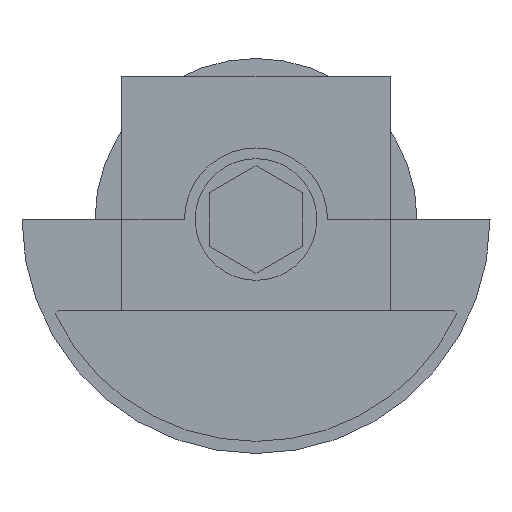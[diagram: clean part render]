
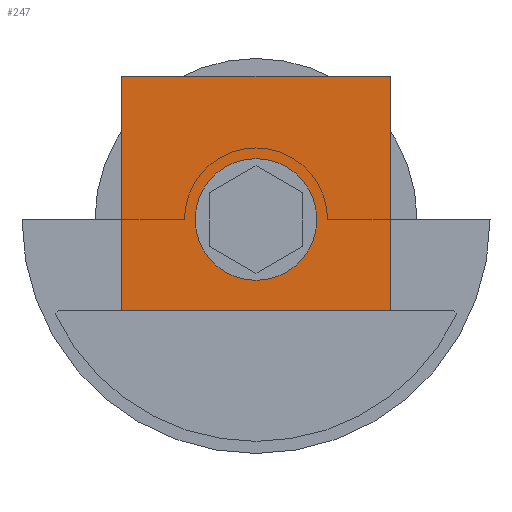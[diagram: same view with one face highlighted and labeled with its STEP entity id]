
A CAD part, left-side view. The second image highlights one B-rep face of the part: STEP entity #247.
In plain terms, the highlighted planar face has unit normal (-1, 0, 0).
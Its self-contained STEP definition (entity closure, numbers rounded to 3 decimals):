
#50 = DIRECTION ( 'NONE',  ( 0., 0., -1. ) ) ;
#52 = FACE_BOUND ( 'NONE', #1831, .T. ) ;
#58 = DIRECTION ( 'NONE',  ( -1., 0., 0. ) ) ;
#244 = CARTESIAN_POINT ( 'NONE',  ( -460., -60.696, 52.7 ) ) ;
#247 = ADVANCED_FACE ( 'NONE', ( #52, #1873 ), #1419, .F. ) ;
#270 = VERTEX_POINT ( 'NONE', #472 ) ;
#327 = CARTESIAN_POINT ( 'NONE',  ( -460., -13.95, 20. ) ) ;
#342 = CARTESIAN_POINT ( 'NONE',  ( -460., -32.7, 32.7 ) ) ;
#448 = DIRECTION ( 'NONE',  ( 0., 0., 1. ) ) ;
#458 = CIRCLE ( 'NONE', #1958, 4. ) ;
#472 = CARTESIAN_POINT ( 'NONE',  ( -460., -32.7, 36.7 ) ) ;
#473 = ORIENTED_EDGE ( 'NONE', *, *, #1324, .F. ) ;
#480 = CARTESIAN_POINT ( 'NONE',  ( -460., -60.696, 52.7 ) ) ;
#484 = AXIS2_PLACEMENT_3D ( 'NONE', #480, #1545, #1881 ) ;
#535 = LINE ( 'NONE', #244, #1837 ) ;
#574 = VERTEX_POINT ( 'NONE', #1216 ) ;
#603 = CARTESIAN_POINT ( 'NONE',  ( -460., -51.45, 52.7 ) ) ;
#626 = VECTOR ( 'NONE', #1466, 1000. ) ;
#635 = VERTEX_POINT ( 'NONE', #1939 ) ;
#652 = VECTOR ( 'NONE', #1403, 1000. ) ;
#673 = LINE ( 'NONE', #806, #652 ) ;
#709 = EDGE_CURVE ( 'NONE', #574, #897, #673, .T. ) ;
#746 = VERTEX_POINT ( 'NONE', #1268 ) ;
#749 = ORIENTED_EDGE ( 'NONE', *, *, #1172, .F. ) ;
#766 = CARTESIAN_POINT ( 'NONE',  ( -460., -13.95, 20. ) ) ;
#794 = CARTESIAN_POINT ( 'NONE',  ( -460., -32.7, 32.7 ) ) ;
#806 = CARTESIAN_POINT ( 'NONE',  ( -460., -60.696, 20. ) ) ;
#897 = VERTEX_POINT ( 'NONE', #766 ) ;
#950 = DIRECTION ( 'NONE',  ( 0., 0., -1. ) ) ;
#1116 = EDGE_LOOP ( 'NONE', ( #1273, #749, #1246, #473 ) ) ;
#1129 = VECTOR ( 'NONE', #448, 1000. ) ;
#1172 = EDGE_CURVE ( 'NONE', #897, #635, #1821, .T. ) ;
#1216 = CARTESIAN_POINT ( 'NONE',  ( -460., -51.45, 20. ) ) ;
#1246 = ORIENTED_EDGE ( 'NONE', *, *, #709, .F. ) ;
#1255 = CARTESIAN_POINT ( 'NONE',  ( -460., -32.7, 28.7 ) ) ;
#1268 = CARTESIAN_POINT ( 'NONE',  ( -460., -51.45, 52.7 ) ) ;
#1273 = ORIENTED_EDGE ( 'NONE', *, *, #1921, .T. ) ;
#1324 = EDGE_CURVE ( 'NONE', #746, #574, #1811, .T. ) ;
#1403 = DIRECTION ( 'NONE',  ( 0., 1., 0. ) ) ;
#1419 = PLANE ( 'NONE',  #484 ) ;
#1441 = ORIENTED_EDGE ( 'NONE', *, *, #1875, .F. ) ;
#1466 = DIRECTION ( 'NONE',  ( 0., 0., -1. ) ) ;
#1545 = DIRECTION ( 'NONE',  ( 1., 0., 0. ) ) ;
#1588 = EDGE_CURVE ( 'NONE', #270, #1799, #458, .T. ) ;
#1604 = CIRCLE ( 'NONE', #1865, 4. ) ;
#1653 = DIRECTION ( 'NONE',  ( -1., 0., 0. ) ) ;
#1772 = DIRECTION ( 'NONE',  ( 0., 1., 0. ) ) ;
#1799 = VERTEX_POINT ( 'NONE', #1255 ) ;
#1811 = LINE ( 'NONE', #603, #626 ) ;
#1821 = LINE ( 'NONE', #327, #1129 ) ;
#1831 = EDGE_LOOP ( 'NONE', ( #1441, #1879 ) ) ;
#1837 = VECTOR ( 'NONE', #1772, 1000. ) ;
#1865 = AXIS2_PLACEMENT_3D ( 'NONE', #794, #1653, #950 ) ;
#1873 = FACE_OUTER_BOUND ( 'NONE', #1116, .T. ) ;
#1875 = EDGE_CURVE ( 'NONE', #1799, #270, #1604, .T. ) ;
#1879 = ORIENTED_EDGE ( 'NONE', *, *, #1588, .F. ) ;
#1881 = DIRECTION ( 'NONE',  ( 0., -1., 0. ) ) ;
#1921 = EDGE_CURVE ( 'NONE', #746, #635, #535, .T. ) ;
#1939 = CARTESIAN_POINT ( 'NONE',  ( -460., -13.95, 52.7 ) ) ;
#1958 = AXIS2_PLACEMENT_3D ( 'NONE', #342, #58, #50 ) ;
